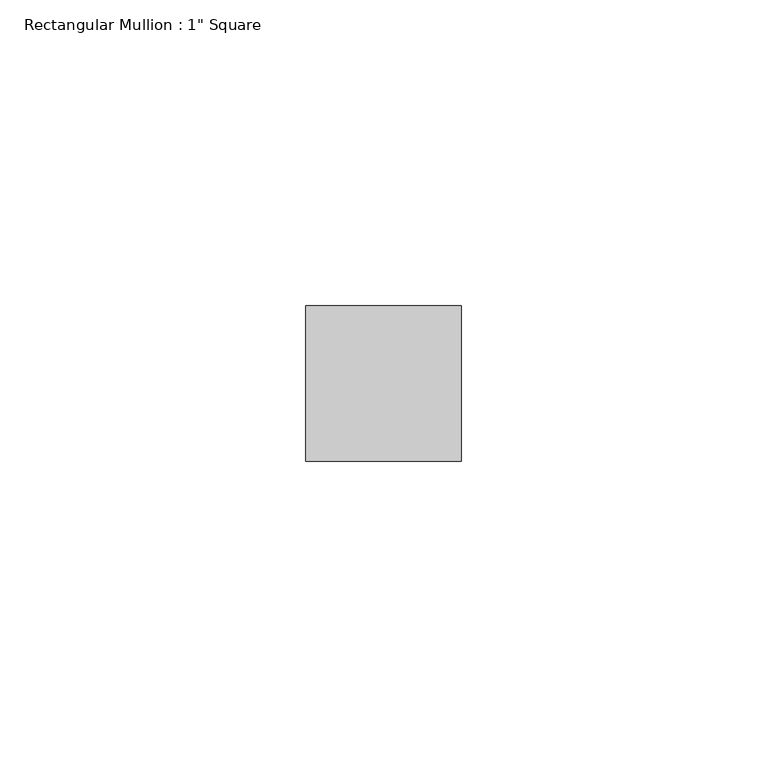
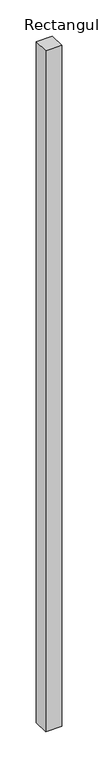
"""IFC4 building model written with IfcOpenShell, lengths in millimetres: member geometry."""

import ifcopenshell
import ifcopenshell.guid

model = None  # the IFC model being written
_history = None  # IfcOwnerHistory: only IFC2X3 demands one
_inside = {}  # id of a spatial element -> (the spatial element, [elements in it])
_under = {}  # id of a project, library or spatial element -> (it, [spatial elements below it])
_declared = {}  # id of a project -> (the project, [libraries it declares])
_typed = {}  # id of a type object -> (the type object, [elements of that type])
_made_of = {}  # id of a material, layer set ... -> (it, [elements and type objects made of it])


def new_model(schema):
    """Start an empty IFC model of exactly this schema.

    Asked for "IFC4X3", IfcOpenShell would pick the latest addendum, in which some entities
    have other attributes; the version numbers below select the first issue.
    IFC2X3 requires an IfcOwnerHistory on every rooted entity: one is made here for all.
    """
    global model, _history
    if schema == "IFC4X3":
        model = ifcopenshell.file(schema_version=(4, 3, 0, 0))
    else:
        model = ifcopenshell.file(schema=schema)
    _inside.clear()
    _under.clear()
    _declared.clear()
    _typed.clear()
    _made_of.clear()
    _history = None
    if model.schema == "IFC2X3":
        org = make("IfcOrganization", Name="unknown")
        user = make(
            "IfcPersonAndOrganization",
            ThePerson=make("IfcPerson", FamilyName="unknown"),
            TheOrganization=org,
        )
        app = make(
            "IfcApplication",
            ApplicationDeveloper=org,
            Version="unknown",
            ApplicationFullName="unknown",
            ApplicationIdentifier="unknown",
        )
        _history = make(
            "IfcOwnerHistory",
            OwningUser=user,
            OwningApplication=app,
            ChangeAction="ADDED",
            CreationDate=0,
        )
    return model


def make(cls, **values):
    """One entity of the class cls with the attributes given. An attribute that is None is left unset."""
    return model.create_entity(
        cls, **{name: value for name, value in values.items() if value is not None}
    )


def rooted(cls, **values):
    """An entity with a GlobalId (a new one), such as an element, a storey or a relation."""
    return make(cls, GlobalId=ifcopenshell.guid.new(), OwnerHistory=_history, **values)


def si_unit(unit_type, name, prefix=None):
    """IfcSIUnit, for example si_unit("LENGTHUNIT", "METRE", prefix="MILLI")."""
    return make("IfcSIUnit", UnitType=unit_type, Prefix=prefix, Name=name)


def assignment(units):
    """IfcUnitAssignment: the units of a project."""
    return None if units is None else make("IfcUnitAssignment", Units=units)


def point(xyz):
    """IfcCartesianPoint."""
    return None if xyz is None else make("IfcCartesianPoint", Coordinates=xyz)


def direction(xyz):
    """IfcDirection."""
    return None if xyz is None else make("IfcDirection", DirectionRatios=xyz)


def frame(location, z_axis=None, x_axis=None):
    """IfcAxis2Placement3D, a coordinate frame: its origin and axes. An axis left out is left unset."""
    return make(
        "IfcAxis2Placement3D",
        Location=point(location),
        Axis=direction(z_axis),
        RefDirection=direction(x_axis),
    )


def origin():
    """The frame at (0, 0, 0) with its axes left unset."""
    return frame((0.0, 0.0, 0.0))


def place(relative_to, where):
    """IfcLocalPlacement: puts the frame where relative to a parent placement (None: the world)."""
    return make(
        "IfcLocalPlacement", PlacementRelTo=relative_to, RelativePlacement=where
    )


def context(
    kind, dimensions, precision=None, world=None, true_north=None, identifier=None
):
    """IfcGeometricRepresentationContext, for example the 3D "Model" context."""
    return make(
        "IfcGeometricRepresentationContext",
        ContextIdentifier=identifier,
        ContextType=kind,
        CoordinateSpaceDimension=dimensions,
        Precision=precision,
        WorldCoordinateSystem=world,
        TrueNorth=true_north,
    )


def project(units=None, contexts=None):
    """IfcProject with its units and contexts."""
    return rooted(
        "IfcProject",
        Name="project",
        RepresentationContexts=contexts,
        UnitsInContext=assignment(units),
    )


def spatial(cls, under=None, at=None, **own):
    """A site, building, storey or space (cls), placed at a placement, below another one or the project."""
    s = rooted(cls, ObjectPlacement=at, **own)
    if under is not None:
        _under.setdefault(under.id(), (under, []))[1].append(s)
    return s


def polyline(points):
    """IfcPolyline through the points."""
    return make("IfcPolyline", Points=[point(p) for p in points])


def outline(outer, holes=None, kind="AREA"):
    """IfcArbitraryClosedProfileDef: a profile drawn as a closed curve; with holes, ...WithVoids."""
    if holes is None:
        return make("IfcArbitraryClosedProfileDef", ProfileType=kind, OuterCurve=outer)
    return make(
        "IfcArbitraryProfileDefWithVoids",
        ProfileType=kind,
        OuterCurve=outer,
        InnerCurves=holes,
    )


def extrude(swept, where, along, depth):
    """IfcExtrudedAreaSolid: the profile swept, set in the frame where, extruded along a direction by depth."""
    return make(
        "IfcExtrudedAreaSolid",
        SweptArea=swept,
        Position=where,
        ExtrudedDirection=direction(along),
        Depth=depth,
    )


def shape(context_of_items, identifier, shape_type, items):
    """IfcShapeRepresentation: the items that make up one representation, for example the "Body"."""
    return make(
        "IfcShapeRepresentation",
        ContextOfItems=context_of_items,
        RepresentationIdentifier=identifier,
        RepresentationType=shape_type,
        Items=items,
    )


def source(mapping_origin, context_of_items, identifier, shape_type, items):
    """IfcRepresentationMap: a shape defined once, which mapped items show again and again."""
    return make(
        "IfcRepresentationMap",
        MappingOrigin=mapping_origin,
        MappedRepresentation=shape(context_of_items, identifier, shape_type, items),
    )


def transform(
    local_origin,
    x_axis=None,
    y_axis=None,
    z_axis=None,
    scale=None,
    scale2=None,
    scale3=None,
    uniform=True,
):
    """IfcCartesianTransformationOperator3D, or its non-uniform kind. x_axis, y_axis, z_axis: its Axis1, 2, 3."""
    if uniform:
        return make(
            "IfcCartesianTransformationOperator3D",
            Axis1=direction(x_axis),
            Axis2=direction(y_axis),
            LocalOrigin=point(local_origin),
            Scale=scale,
            Axis3=direction(z_axis),
        )
    return make(
        "IfcCartesianTransformationOperator3DnonUniform",
        Axis1=direction(x_axis),
        Axis2=direction(y_axis),
        LocalOrigin=point(local_origin),
        Scale=scale,
        Axis3=direction(z_axis),
        Scale2=scale2,
        Scale3=scale3,
    )


def mapped(mapping_source, mapping_target):
    """IfcMappedItem: shows the shape of a source again, moved by a transform."""
    return make(
        "IfcMappedItem", MappingSource=mapping_source, MappingTarget=mapping_target
    )


def made_of(thing, what):
    """Note that an element or type object is made of a material, layer set ...; save() writes the relation."""
    if what is not None:
        _made_of.setdefault(what.id(), (what, []))[1].append(thing)
    return thing


def element(
    cls,
    number,
    at=None,
    inside=None,
    cuts=None,
    type_object=None,
    material=None,
    context=None,
    identifier="Body",
    shape_type=None,
    held_by="IfcProductDefinitionShape",
    body=None,
    shapes=None,
    **own,
):
    """One element of the class cls, such as IfcWall. Its Tag is "e" and its number.

    at: its placement. inside: the storey or other place that contains it. cuts: it is an
    opening in that element (IfcRelVoidsElement). A single representation is given by context,
    identifier, shape_type and body (its items); several are given by shapes. held_by: the class
    of the entity that holds the representations. save() writes the other relations.
    """
    e = rooted(cls, Tag="e%d" % number, ObjectPlacement=at, **own)
    if body is not None:
        shapes = [shape(context, identifier, shape_type, body)]
    if shapes is not None:
        e.Representation = make(held_by, Representations=shapes)
    if inside is not None:
        _inside.setdefault(inside.id(), (inside, []))[1].append(e)
    if cuts is not None:
        rooted(
            "IfcRelVoidsElement", RelatingBuildingElement=cuts, RelatedOpeningElement=e
        )
    if type_object is not None:
        _typed.setdefault(type_object.id(), (type_object, []))[1].append(e)
    return made_of(e, material)


def aggregate(whole, parts):
    """IfcRelAggregates: a whole, such as a stair, and the parts it consists of."""
    return rooted("IfcRelAggregates", RelatingObject=whole, RelatedObjects=parts)


def save(model, path):
    """Write the relations noted so far, then the file.

    IfcRelAggregates (storeys below a building ...), IfcRelContainedInSpatialStructure (elements
    in a storey), IfcRelDefinesByType, IfcRelAssociatesMaterial and IfcRelDeclares: one each for
    every whole, place, type object, material and project.
    """
    for whole, parts in _under.values():
        aggregate(whole, parts)
    for where, things in _inside.values():
        rooted(
            "IfcRelContainedInSpatialStructure",
            RelatedElements=things,
            RelatingStructure=where,
        )
    for kind, things in _typed.values():
        rooted("IfcRelDefinesByType", RelatedObjects=things, RelatingType=kind)
    for what, things in _made_of.values():
        rooted("IfcRelAssociatesMaterial", RelatedObjects=things, RelatingMaterial=what)
    for by, libraries in _declared.values():
        rooted("IfcRelDeclares", RelatingContext=by, RelatedDefinitions=libraries)
    model.write(path)


def member_429df068(model_context):
    return source(origin(), model_context, "Body", "SweptSolid", [
        extrude(outline(polyline([(0.0, 12.7), (0.0, -12.7), (-25.4, -12.7), (-25.4, 12.7), (0.0, 12.7)])), frame((0.0, 0.0, -1144.0), z_axis=(0.0, 0.0, 1.0), x_axis=(1.0, 0.0, 0.0)), (0.0, 0.0, 1.0), 1144.0),
    ])


if __name__ == "__main__":
    model = new_model("IFC4")
    model_context = context("Model", 3, world=origin())
    ifc_project = project(units=[si_unit("LENGTHUNIT", "METRE", prefix="MILLI")], contexts=[model_context])
    site = spatial("IfcSite", under=ifc_project)
    building = spatial("IfcBuilding", under=site)
    placement = place(None, origin())
    member_shape = member_429df068(model_context)
    element("IfcMember", 1, ObjectType="Rectangular Mullion : 1\" Square", at=placement, inside=building, context=model_context, shape_type="MappedRepresentation", body=[
        mapped(member_shape, transform((0.0, 0.0, 0.0), x_axis=(1.0, 0.0, 0.0), y_axis=(0.0, 1.0, 0.0), z_axis=(0.0, 0.0, 1.0))),
    ])
    save(model, "model.ifc")
